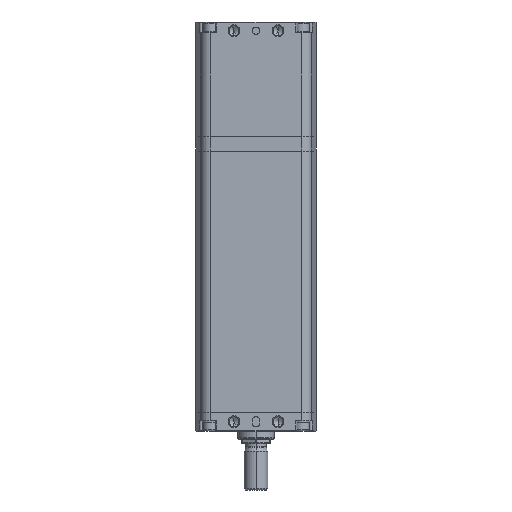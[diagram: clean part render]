
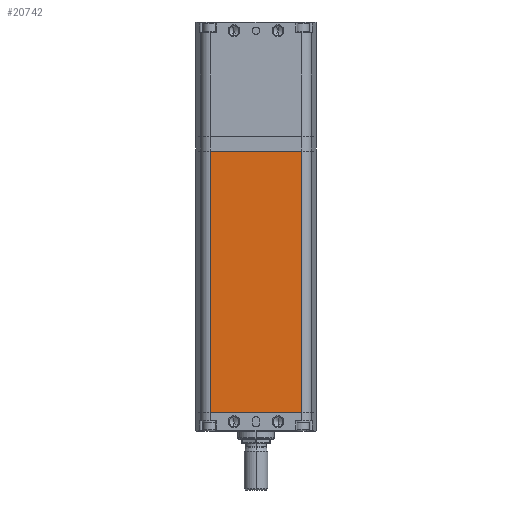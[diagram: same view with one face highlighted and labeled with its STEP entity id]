
A CAD part, front view. The second image highlights one B-rep face of the part: STEP entity #20742.
In plain terms, the highlighted planar face has unit normal (0, -1, 0).
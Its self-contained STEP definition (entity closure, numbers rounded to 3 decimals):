
#61 = VECTOR ( 'NONE', #17716, 1000. ) ;
#455 = VECTOR ( 'NONE', #13106, 1000. ) ;
#1337 = LINE ( 'NONE', #3298, #61 ) ;
#2948 = EDGE_CURVE ( 'NONE', #4210, #9276, #14477, .T. ) ;
#3276 = DIRECTION ( 'NONE',  ( 0., 0., 1. ) ) ;
#3298 = CARTESIAN_POINT ( 'NONE',  ( -31.138, -41., -1073. ) ) ;
#3798 = EDGE_CURVE ( 'NONE', #18414, #9276, #20380, .T. ) ;
#4210 = VERTEX_POINT ( 'NONE', #12416 ) ;
#5061 = FACE_OUTER_BOUND ( 'NONE', #21013, .T. ) ;
#6910 = CARTESIAN_POINT ( 'NONE',  ( -41., -41., -1073. ) ) ;
#7908 = AXIS2_PLACEMENT_3D ( 'NONE', #6910, #10584, #18021 ) ;
#8318 = ORIENTED_EDGE ( 'NONE', *, *, #20270, .T. ) ;
#9276 = VERTEX_POINT ( 'NONE', #12667 ) ;
#10584 = DIRECTION ( 'NONE',  ( 0., -1., 0. ) ) ;
#10761 = ORIENTED_EDGE ( 'NONE', *, *, #3798, .T. ) ;
#12293 = CARTESIAN_POINT ( 'NONE',  ( -41., -41., -73. ) ) ;
#12407 = PLANE ( 'NONE',  #7908 ) ;
#12416 = CARTESIAN_POINT ( 'NONE',  ( -31.138, -41., -73. ) ) ;
#12667 = CARTESIAN_POINT ( 'NONE',  ( 31.138, -41., -73. ) ) ;
#13106 = DIRECTION ( 'NONE',  ( 1., 0., 0. ) ) ;
#14140 = VECTOR ( 'NONE', #19990, 1000. ) ;
#14477 = LINE ( 'NONE', #12293, #14140 ) ;
#17716 = DIRECTION ( 'NONE',  ( 0., 0., -1. ) ) ;
#18021 = DIRECTION ( 'NONE',  ( 0., 0., -1. ) ) ;
#18414 = VERTEX_POINT ( 'NONE', #19409 ) ;
#18484 = ORIENTED_EDGE ( 'NONE', *, *, #20066, .T. ) ;
#18609 = CARTESIAN_POINT ( 'NONE',  ( -41., -41., -251. ) ) ;
#18722 = LINE ( 'NONE', #18609, #455 ) ;
#19409 = CARTESIAN_POINT ( 'NONE',  ( 31.138, -41., -251. ) ) ;
#19990 = DIRECTION ( 'NONE',  ( 1., 0., 0. ) ) ;
#20066 = EDGE_CURVE ( 'NONE', #22653, #18414, #18722, .T. ) ;
#20154 = CARTESIAN_POINT ( 'NONE',  ( 31.138, -41., -1073. ) ) ;
#20270 = EDGE_CURVE ( 'NONE', #4210, #22653, #1337, .T. ) ;
#20380 = LINE ( 'NONE', #20154, #21311 ) ;
#20742 = ADVANCED_FACE ( 'NONE', ( #5061 ), #12407, .T. ) ;
#21013 = EDGE_LOOP ( 'NONE', ( #8318, #18484, #10761, #22228 ) ) ;
#21311 = VECTOR ( 'NONE', #3276, 1000. ) ;
#21961 = CARTESIAN_POINT ( 'NONE',  ( -31.138, -41., -251. ) ) ;
#22228 = ORIENTED_EDGE ( 'NONE', *, *, #2948, .F. ) ;
#22653 = VERTEX_POINT ( 'NONE', #21961 ) ;
